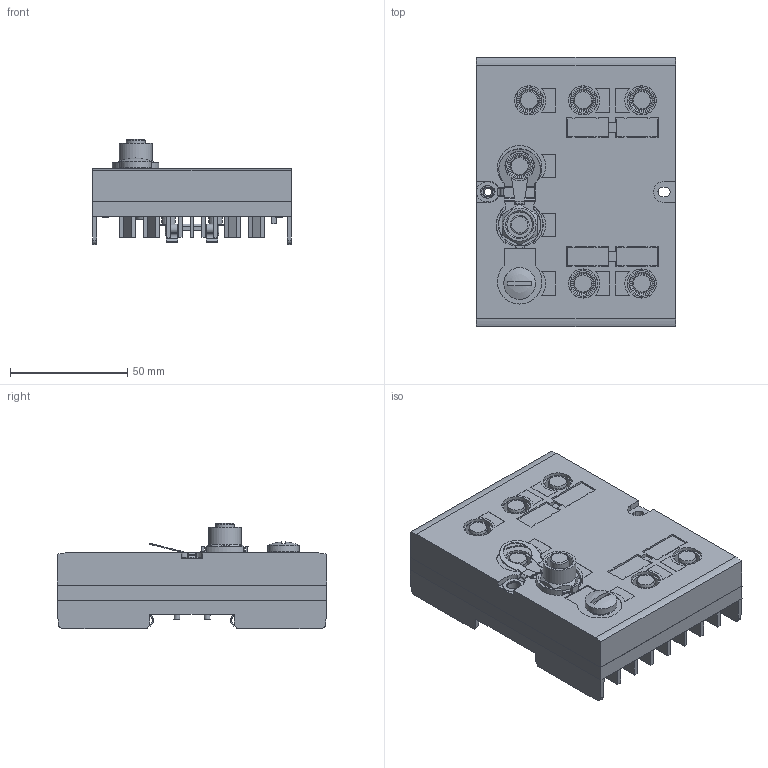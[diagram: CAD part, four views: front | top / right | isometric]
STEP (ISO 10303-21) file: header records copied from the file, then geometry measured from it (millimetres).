
FILE_DESCRIPTION( ( 'STEP AP203' ), '1' );
FILE_NAME( '//expscmdclustefs.cadenas.external/client_exchange/iodir/jobs/output/wkb80970192_no0/STEP/DTE101_2_03.stp', ' ', ( ' ' ), ( ' ' ), 'PSStep 15.0.47', 'PARTsolutions', ' ' );
FILE_SCHEMA( ( 'CONFIG_CONTROL_DESIGN' ) );
Length unit declared in the file: millimetre
Products named in the file (1): _DTE101
Bounding box: 85 x 115 x 44.75 mm (x, y, z)
Volume: 205155.8 mm3; surface area: 48886.9 mm2
Topology: 1 solids, 3 shells, 831 faces, 2171 edges, 1427 vertices
Faces by surface type: plane 569, cylinder 197, cone 39, torus 14, bspline 7, sphere 5
Full cylindrical faces by diameter (mm): 1.3 x1, 3.242 x1, 5.2 x1, 5.6 x4, 7.85 x7, 8 x1, 8.4 x1, 9.8 x7, 10.7 x2, 10.917 x7, 10.92 x1, 12 x1, 13.5 x1, 14 x1
Entity records: 25241 total; most frequent: CARTESIAN_POINT 4987, ORIENTED_EDGE 4116, DIRECTION 4076, EDGE_CURVE 2058, LINE 1528, VECTOR 1528, VERTEX_POINT 1403, AXIS2_PLACEMENT_3D 1274
